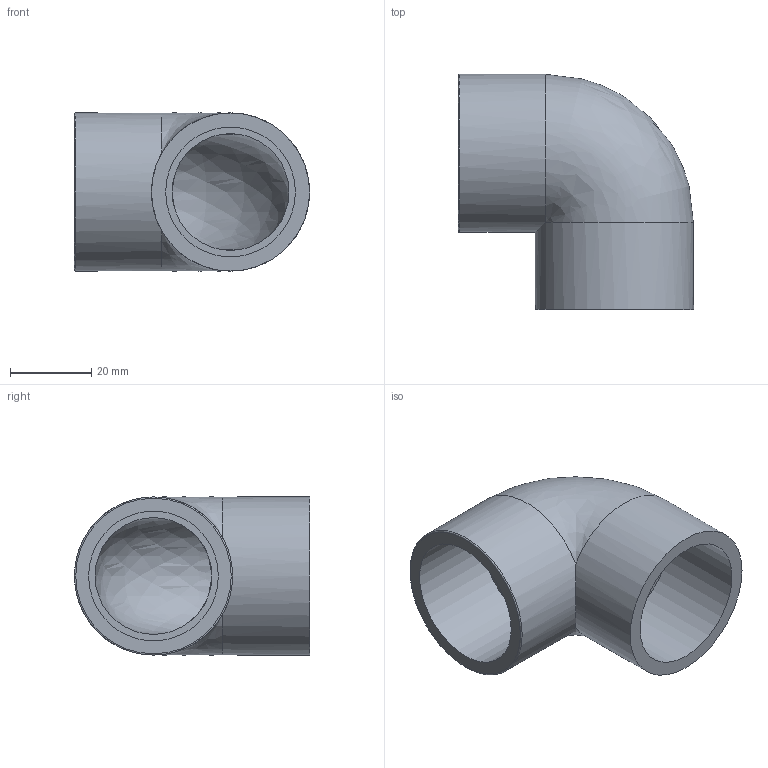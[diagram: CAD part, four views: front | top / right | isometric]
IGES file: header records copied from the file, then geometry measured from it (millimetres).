
Global section: file name: 050500032.ipt; native system: Autodesk Inventor 2015; preprocessor: unknown; author: KIM; date: 20171207.164611; units: millimetre
Bounding box: 58 x 58 x 39 mm (x, y, z)
Volume: 31327.7 mm3; surface area: 16369.8 mm2
Topology: 1 solids, 1 shells, 11 faces, 26 edges, 17 vertices
Faces by surface type: revolution 4, plane 4, cylinder 2, bspline 1
Full cylindrical faces by diameter (mm): 39 x2
